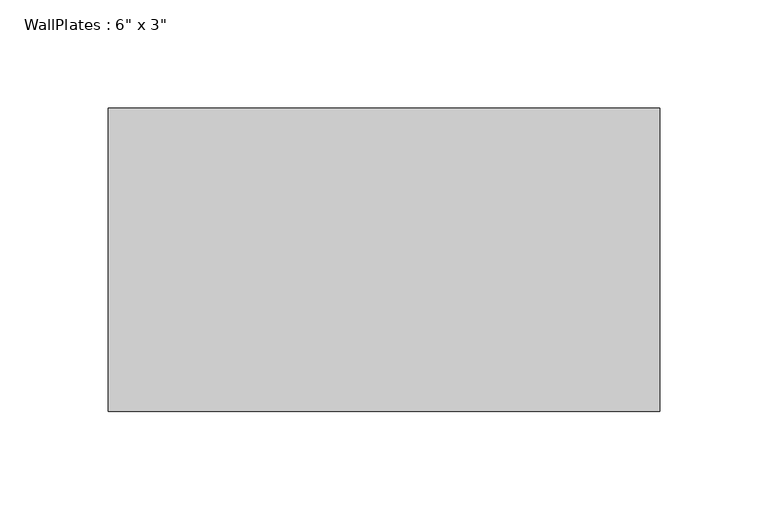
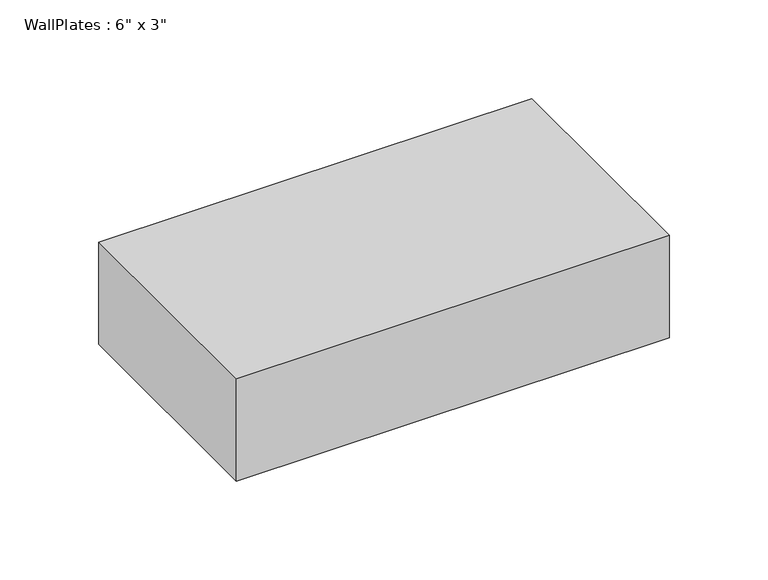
"""IFC4 building model written with IfcOpenShell, lengths in millimetres: beam geometry."""

from ifc_helpers import new_model, si_unit, frame, origin, place, context, project, spatial, polyline, outline, extrude, source, transform, mapped, element, save


def beam_a4d90c35(model_context):
    return source(origin(), model_context, "Body", "SweptSolid", [
        extrude(outline(polyline([(-127.0, -69.85), (-127.0, 69.85), (127.0, 69.85), (127.0, -69.85), (-127.0, -69.85)])), frame((0.0, 0.0, -31.75), z_axis=(0.0, 0.0, 1.0), x_axis=(1.0, 0.0, 0.0)), (0.0, 0.0, 1.0), 63.5),
    ])


if __name__ == "__main__":
    model = new_model("IFC4")
    model_context = context("Model", 3, world=origin())
    ifc_project = project(units=[si_unit("LENGTHUNIT", "METRE", prefix="MILLI")], contexts=[model_context])
    site = spatial("IfcSite", under=ifc_project)
    building = spatial("IfcBuilding", under=site)
    placement = place(None, origin())
    beam_shape = beam_a4d90c35(model_context)
    element("IfcBeam", 1, ObjectType="WallPlates : 6\" x 3\"", at=placement, inside=building, context=model_context, shape_type="MappedRepresentation", body=[
        mapped(beam_shape, transform((0.0, 0.0, 0.0), x_axis=(1.0, 0.0, 0.0), y_axis=(0.0, 1.0, 0.0), z_axis=(0.0, 0.0, 1.0))),
    ])
    save(model, "model.ifc")
